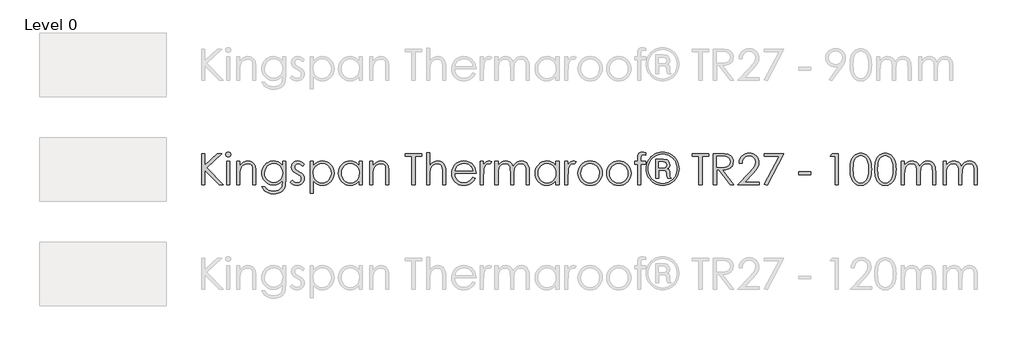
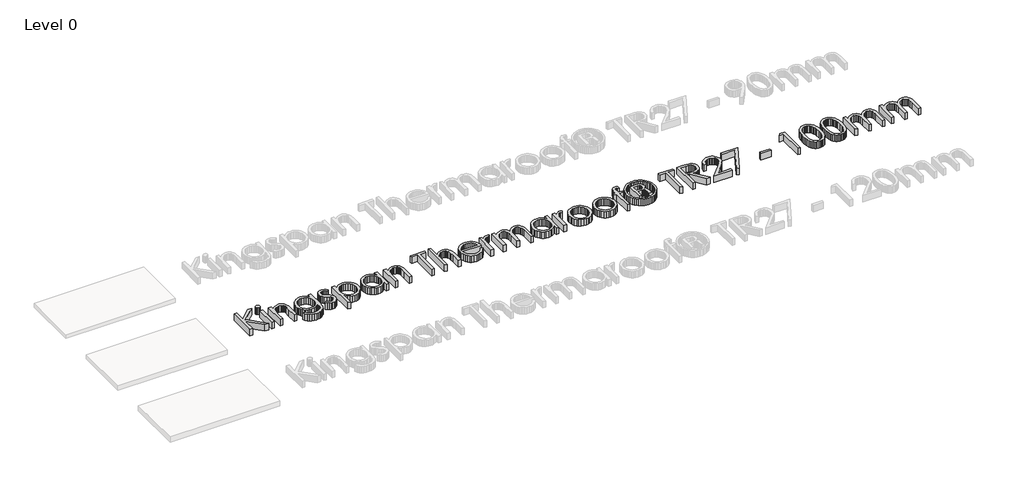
# One storey, part 7 of 12: 1 proxy.
"""IFC4 building model written with IfcOpenShell, lengths in millimetres."""

from ifc_helpers import new_model, si_unit, origin, origin_with_axes, place, context, project, spatial, polyline, outline, extrude, element, save

model = new_model("IFC4")

# Units and contexts
model_context = context("Model", 3, world=origin())
ifc_project = project(units=[si_unit("LENGTHUNIT", "METRE", prefix="MILLI")], contexts=[model_context])

# Site, building, storey
site = spatial("IfcSite", under=ifc_project)
building = spatial("IfcBuilding", under=site)
storey = spatial("IfcBuildingStorey", under=building, Name="Level 0", Elevation=0.0)

# Proxy
placement = place(None, origin())
element("IfcBuildingElementProxy", 1, Name="600mm KI_CenturyGothic", ObjectType="600mm KI_CenturyGothic", at=placement, inside=storey, context=model_context, shape_type="SweptSolid", body=[
    extrude(outline(polyline([(-3852.2663848, -3999.1037185), (-3792.944575, -3999.1037185), (-3792.944575, -4218.3163438), (-3555.1938841, -3999.1037185), (-3471.6181051, -3999.1037185), (-3760.9664119, -4266.0518627), (-3441.9572002, -4592.3218167), (-3520.8984627, -4592.3218167), (-3792.944575, -4314.0963493), (-3792.944575, -4592.3218167), (-3852.2663848, -4592.3218167), (-3852.2663848, -3999.1037185)])), origin_with_axes(), (0.0, 0.0, 1.0), 150.0),
    extrude(outline(polyline([(-3348.1854852, -3969.4428135), (-3329.145347, -3972.725596), (-3313.1176445, -3982.5739433), (-3302.226531, -3997.0181861), (-3298.5961598, -4014.0886548), (-3302.226531, -4030.9273977), (-3313.1176445, -4045.2943985), (-3329.145347, -4055.1427458), (-3348.1854852, -4058.4255283), (-3366.9938975, -4055.1427458), (-3382.9443581, -4045.2943985), (-3393.8354717, -4030.9273977), (-3397.4658428, -4014.0886548), (-3393.8354717, -3997.0181861), (-3382.9443581, -3982.5739433), (-3366.9938975, -3972.725596), (-3348.1854852, -3969.4428135)])), origin_with_axes(), (0.0, 0.0, 1.0), 150.0),
    extrude(outline(polyline([(-3377.6919062, -4147.408243), (-3318.3700964, -4147.408243), (-3318.3700964, -4592.3218167), (-3377.6919062, -4592.3218167), (-3377.6919062, -4147.408243)])), origin_with_axes(), (0.0, 0.0, 1.0), 150.0),
    extrude(outline(polyline([(-3189.8395084, -4147.408243), (-3130.5176986, -4147.408243), (-3130.5176986, -4226.5039894), (-3096.9946967, -4186.9947372), (-3060.0730495, -4159.3035018), (-3019.7141359, -4142.9668315), (-2975.879335, -4137.5212747), (-2953.4357238, -4139.0999069), (-2932.2955704, -4143.8358033), (-2912.4588747, -4151.728964), (-2893.9256368, -4162.7793891), (-2877.212412, -4176.5043162), (-2862.835756, -4192.4209835), (-2841.0921499, -4230.8295381), (-2833.6238199, -4255.2090254), (-2828.2892984, -4285.5554525), (-2824.0216812, -4364.1491263), (-2824.0216812, -4592.3218167), (-2883.343491, -4592.3218167), (-2883.343491, -4379.1340626), (-2883.343491, -4276.0933148), (-2884.7290183, -4255.2959225), (-2889.8125035, -4237.2406191), (-2898.2849788, -4221.9274045), (-2910.1464442, -4209.3562788), (-2924.7403432, -4199.5562077), (-2941.4101193, -4192.5561569), (-2980.977303, -4186.9561162), (-3005.3471351, -4189.1140629), (-3028.4038541, -4195.587903), (-3050.1474602, -4206.3776365), (-3070.5779533, -4221.4832634), (-3088.6622225, -4239.765465), (-3103.3671568, -4260.0849228), (-3114.6927562, -4282.4416368), (-3122.6390208, -4306.8356069), (-3128.5480292, -4353.9145693), (-3130.5176986, -4428.4144203), (-3130.5176986, -4592.3218167), (-3189.8395084, -4592.3218167), (-3189.8395084, -4147.408243)])), origin_with_axes(), (0.0, 0.0, 1.0), 150.0),
    extrude(outline(polyline([(-2319.7862977, -4147.408243), (-2260.4644879, -4147.408243), (-2260.4644879, -4498.3956178), (-2264.5196897, -4578.6499933), (-2269.588692, -4609.4502169), (-2276.6852953, -4634.0324642), (-2289.9371156, -4662.6457753), (-2307.2924139, -4687.7735439), (-2328.7511904, -4709.4157699), (-2354.3134448, -4727.5724534), (-2383.3226209, -4741.9346266), (-2415.122162, -4752.1933217), (-2449.7120682, -4758.3485388), (-2487.0923395, -4760.4002779), (-2541.0458345, -4756.383697), (-2589.206184, -4744.3339544), (-2630.260275, -4725.5062315), (-2662.8949946, -4701.15571), (-2690.2000204, -4667.8065024), (-2715.2650299, -4621.9827216), (-2655.94322, -4621.9827216), (-2642.4355358, -4643.1518408), (-2627.0933555, -4661.3954214), (-2609.9166791, -4676.7134636), (-2590.9055067, -4689.1059674), (-2569.7894914, -4698.669485), (-2546.2982864, -4705.5005691), (-2492.1903075, -4710.9654363), (-2438.5071593, -4705.6357425), (-2415.083541, -4698.9736252), (-2393.93856, -4689.6466609), (-2359.6624492, -4665.6051071), (-2336.8567664, -4636.1179966), (-2329.3884364, -4617.478551), (-2324.0539149, -4593.7701031), (-2319.7862977, -4531.1462003), (-2319.7862977, -4508.43707), (-2354.757586, -4544.2193986), (-2396.6420279, -4570.6168316), (-2443.392712, -4586.8955704), (-2492.9627269, -4592.3218167), (-2522.4063889, -4590.4245615), (-2550.9521133, -4584.7327961), (-2578.5999001, -4575.2465204), (-2605.3497494, -4561.9657343), (-2630.1540674, -4545.4745802), (-2651.9652601, -4526.3572), (-2670.7833277, -4504.613594), (-2686.6082702, -4480.2437619), (-2699.1456025, -4453.9283985), (-2708.1008399, -4426.3481984), (-2713.4739824, -4397.5031615), (-2715.2650299, -4367.3932878), (-2713.3967404, -4337.1047921), (-2707.7918722, -4307.8783731), (-2698.4504251, -4279.7140308), (-2685.3723991, -4252.6117651), (-2668.9971079, -4227.4260651), (-2649.7638648, -4205.0114197), (-2627.67267, -4185.3678288), (-2602.7235235, -4168.4952926), (-2575.9833294, -4154.9441598), (-2548.5189922, -4145.2647792), (-2520.3305117, -4139.4571508), (-2491.4178881, -4137.5212747), (-2444.5320306, -4142.4647589), (-2400.8903346, -4157.2952113), (-2359.6045177, -4183.8664386), (-2319.7862977, -4224.0322474), (-2319.7862977, -4147.408243)]), holes=[polyline([(-2484.1571458, -4186.9561162), (-2529.0154023, -4192.9809875), (-2570.5908765, -4211.0556015), (-2606.2187212, -4239.7702926), (-2633.2340897, -4277.7153956), (-2650.2659375, -4321.9943376), (-2655.94322, -4369.710546), (-2653.0080263, -4405.6232204), (-2644.2024452, -4438.2820781), (-2629.5264766, -4467.6871191), (-2608.9801206, -4493.8383434), (-2583.7606272, -4515.2971198), (-2555.0652466, -4530.6248172), (-2522.8939786, -4539.8214357), (-2487.2468234, -4542.8869752), (-2451.3244937, -4539.8455738), (-2419.1001219, -4530.7213696), (-2390.573708, -4515.5143627), (-2365.7452519, -4494.2245531), (-2345.6382095, -4467.981604), (-2331.2760363, -4437.9151789), (-2322.6587323, -4404.0252778), (-2319.7862977, -4366.3119006), (-2325.0773706, -4317.6108575), (-2340.9505892, -4274.3939922), (-2366.4983608, -4238.1675224), (-2400.8130926, -4210.437666), (-2440.9982119, -4192.8265037), (-2484.1571458, -4186.9561162)])]), origin_with_axes(), (0.0, 0.0, 1.0), 150.0),
    extrude(outline(polyline([(-1904.5336289, -4198.6968911), (-1940.9918246, -4236.3909578), (-1962.9575012, -4214.7632146), (-1984.6721416, -4199.3148266), (-2006.1357456, -4190.0457938), (-2027.3483133, -4186.9561162), (-2052.181597, -4191.6292536), (-2073.2300256, -4205.6486657), (-2087.5970264, -4225.8860539), (-2092.3860267, -4249.2131198), (-2088.4466878, -4270.763621), (-2076.628671, -4291.2327351), (-2052.0657341, -4313.4011718), (-2010.2006027, -4339.1227378), (-1958.3326401, -4371.9891832), (-1939.8428507, -4387.8141256), (-1926.315856, -4403.2335479), (-1909.9791857, -4435.9068884), (-1904.5336289, -4472.442326), (-1906.9474396, -4498.5887227), (-1914.1888714, -4522.6495869), (-1926.2579245, -4544.6249188), (-1943.1545989, -4564.5147183), (-1963.6719892, -4581.0058725), (-1986.6031901, -4592.7852683), (-2011.9482016, -4599.8529058), (-2039.7070237, -4602.208785), (-2077.4397114, -4598.3273775), (-2113.3958344, -4586.6831551), (-2145.4512394, -4568.203021), (-2171.4817731, -4543.8138785), (-2135.7959969, -4503.339102), (-2114.0041146, -4524.9668451), (-2091.5749863, -4540.4152331), (-2068.5086121, -4549.6842659), (-2044.8049918, -4552.7739435), (-2013.637869, -4547.1352819), (-1987.4914724, -4530.219297), (-1969.7644472, -4505.6563602), (-1963.8554388, -4477.0768424), (-1967.7561567, -4453.2863249), (-1979.4583106, -4432.2765173), (-2005.0253927, -4410.5715322), (-2050.2119275, -4383.768579), (-2099.762632, -4353.1035289), (-2117.441381, -4337.9447982), (-2130.3890611, -4322.9019304), (-2146.3781427, -4290.7692834), (-2151.7078365, -4254.3110878), (-2149.5305794, -4230.2647064), (-2142.9988078, -4208.3328231), (-2132.1125219, -4188.5154379), (-2116.8717217, -4170.8125508), (-2098.309518, -4156.2476175), (-2077.4590218, -4145.8440937), (-2054.3202332, -4139.6019795), (-2028.8931521, -4137.5212747), (-1997.9481, -4141.3447507), (-1966.9064954, -4152.8151788), (-1935.7683384, -4171.9325589), (-1904.5336289, -4198.6968911)])), origin_with_axes(), (0.0, 0.0, 1.0), 150.0),
    extrude(outline(polyline([(-1795.7769776, -4147.408243), (-1736.4551678, -4147.408243), (-1736.4551678, -4228.5122799), (-1700.9238754, -4188.2692292), (-1660.4490989, -4159.9214373), (-1614.9922173, -4143.1213154), (-1564.5146096, -4137.5212747), (-1520.0618732, -4141.7599262), (-1478.9305402, -4154.4758805), (-1441.1206107, -4175.6691378), (-1406.6320845, -4205.3396979), (-1377.9077381, -4240.9771979), (-1357.3903478, -4280.0712748), (-1345.0799137, -4322.6219284), (-1340.9764356, -4368.6291588), (-1345.0412927, -4415.5294992), (-1357.235864, -4458.7511922), (-1377.5601494, -4498.2942378), (-1406.014149, -4534.158636), (-1440.2130179, -4563.9305762), (-1477.7719111, -4585.1962477), (-1518.6908288, -4597.9556507), (-1562.9697708, -4602.208785), (-1612.6170277, -4596.7439178), (-1658.0545988, -4580.349316), (-1699.3211052, -4553.1022217), (-1736.4551678, -4515.0798768), (-1736.4551678, -4750.5133096), (-1795.7769776, -4750.5133096), (-1795.7769776, -4147.408243)]), holes=[polyline([(-1568.5311905, -4186.9561162), (-1602.5852307, -4190.2533815), (-1633.8392507, -4200.1451775), (-1662.2932503, -4216.631504), (-1687.9472295, -4239.7123612), (-1709.1694525, -4267.6980815), (-1724.3281832, -4298.8989976), (-1733.4234216, -4333.3151094), (-1736.4551678, -4370.946417), (-1731.048232, -4419.801944), (-1714.8274246, -4463.482261), (-1688.5265441, -4500.3266663), (-1652.8793888, -4528.6744582), (-1611.4390881, -4546.7490722), (-1567.7587711, -4552.7739435), (-1525.0632888, -4546.7104512), (-1485.0326535, -4528.5199744), (-1450.2544701, -4499.4190735), (-1423.3163435, -4460.6243092), (-1406.05277, -4415.9591575), (-1400.2982454, -4369.2470943), (-1405.9948385, -4322.3033054), (-1423.0846177, -4277.8698795), (-1449.8103289, -4239.5192563), (-1484.414718, -4210.8238757), (-1524.7157001, -4192.9230561), (-1568.5311905, -4186.9561162)])]), origin_with_axes(), (0.0, 0.0, 1.0), 150.0),
    extrude(outline(polyline([(-807.0801472, -4147.408243), (-807.0801472, -4592.3218167), (-866.401957, -4592.3218167), (-866.401957, -4516.4702317), (-903.4780882, -4554.3187823), (-944.8797679, -4581.0444935), (-990.4525125, -4596.9177121), (-1040.0418379, -4602.208785), (-1084.3159523, -4597.9556507), (-1125.2203871, -4585.1962477), (-1162.7551422, -4563.9305762), (-1196.9202178, -4534.158636), (-1225.340424, -4498.2942378), (-1245.6405713, -4458.7511922), (-1257.8206597, -4415.5294992), (-1261.8806892, -4368.6291588), (-1257.7820388, -4322.6219284), (-1245.4860875, -4280.0712748), (-1224.9928353, -4240.9771979), (-1196.3022822, -4205.3396979), (-1161.8475494, -4175.6691378), (-1124.061758, -4154.4758805), (-1082.9449079, -4141.7599262), (-1038.4969991, -4137.5212747), (-987.7490446, -4143.1213154), (-942.0990581, -4159.9214373), (-921.2051134, -4172.6084259), (-901.6242816, -4188.2692292), (-866.401957, -4228.5122799), (-866.401957, -4147.408243), (-807.0801472, -4147.408243)]), holes=[polyline([(-1034.3259343, -4186.9561162), (-1078.1414247, -4192.9230561), (-1118.4424068, -4210.8238757), (-1153.0467959, -4239.5192563), (-1179.7725071, -4277.8698795), (-1196.8622863, -4322.3033054), (-1202.5588794, -4369.2470943), (-1196.8043548, -4415.9591575), (-1179.5407813, -4460.6243092), (-1152.6026548, -4499.4190735), (-1117.8244713, -4528.5199744), (-1077.6779731, -4546.7104512), (-1034.6349021, -4552.7739435), (-991.0125165, -4546.7490722), (-949.7460102, -4528.6744582), (-914.2726493, -4500.3266663), (-888.0297002, -4463.482261), (-871.8088928, -4419.801944), (-866.401957, -4370.946417), (-869.4337032, -4333.3151094), (-878.5289416, -4298.8989976), (-893.6876723, -4267.6980815), (-914.9098953, -4239.7123612), (-940.5638746, -4216.631504), (-969.0178742, -4200.1451775), (-1000.2718941, -4190.2533815), (-1034.3259343, -4186.9561162)])]), origin_with_axes(), (0.0, 0.0, 1.0), 150.0),
    extrude(outline(polyline([(-668.662591, -4147.408243), (-609.3407811, -4147.408243), (-609.3407811, -4226.5039894), (-575.8177792, -4186.9947372), (-538.896132, -4159.3035018), (-498.5372184, -4142.9668315), (-454.7024175, -4137.5212747), (-432.2588064, -4139.0999069), (-411.1186529, -4143.8358033), (-391.2819572, -4151.728964), (-372.7487193, -4162.7793891), (-356.0354946, -4176.5043162), (-341.6588385, -4192.4209835), (-319.9152324, -4230.8295381), (-312.4469024, -4255.2090254), (-307.1123809, -4285.5554525), (-302.8447637, -4364.1491263), (-302.8447637, -4592.3218167), (-362.1665735, -4592.3218167), (-362.1665735, -4379.1340626), (-362.1665735, -4276.0933148), (-363.5521008, -4255.2959225), (-368.635586, -4237.2406191), (-377.1080613, -4221.9274045), (-388.9695267, -4209.3562788), (-403.5634257, -4199.5562077), (-420.2332018, -4192.5561569), (-459.8003855, -4186.9561162), (-484.1702176, -4189.1140629), (-507.2269366, -4195.587903), (-528.9705427, -4206.3776365), (-549.4010358, -4221.4832634), (-567.485305, -4239.765465), (-582.1902393, -4260.0849228), (-593.5158387, -4282.4416368), (-601.4621033, -4306.8356069), (-607.3711117, -4353.9145693), (-609.3407811, -4428.4144203), (-609.3407811, -4592.3218167), (-668.662591, -4592.3218167), (-668.662591, -4147.408243)])), origin_with_axes(), (0.0, 0.0, 1.0), 150.0),
    extrude(outline(polyline([(3.6512537, -4048.53856), (3.6512537, -3999.1037185), (320.0342394, -3999.1037185), (320.0342394, -4048.53856), (191.5036515, -4048.53856), (191.5036515, -4592.3218167), (132.1818417, -4592.3218167), (132.1818417, -4048.53856), (3.6512537, -4048.53856)])), origin_with_axes(), (0.0, 0.0, 1.0), 150.0),
    extrude(outline(polyline([(409.0169542, -3979.3297819), (468.338764, -3979.3297819), (468.338764, -4228.0488282), (502.1128022, -4188.3464712), (539.1696229, -4160.0759212), (579.470605, -4143.1599363), (622.9771276, -4137.5212747), (645.4207388, -4139.0999069), (666.5608922, -4143.8358033), (686.3975879, -4151.728964), (704.9308258, -4162.7793891), (721.6440506, -4176.4898334), (736.0207066, -4192.363052), (757.7643127, -4230.5978123), (765.2326428, -4254.9048852), (770.5671642, -4285.2657952), (774.8347814, -4364.1491263), (774.8347814, -4592.3218167), (715.5129716, -4592.3218167), (715.5129716, -4379.1340626), (714.1226167, -4314.7529058), (709.9515519, -4276.0933148), (696.4342124, -4237.2406191), (686.7210385, -4221.9274045), (675.0381951, -4209.3562788), (661.3953375, -4199.5562077), (645.8021209, -4192.5561569), (608.7646107, -4186.9561162), (585.8961689, -4189.1140629), (564.2539428, -4195.587903), (543.8379326, -4206.3776365), (524.6481382, -4221.4832634), (507.659739, -4239.765465), (493.8479146, -4260.0849228), (483.212665, -4282.4416368), (475.7539902, -4306.8356069), (470.1925705, -4353.6828435), (468.338764, -4428.4144203), (468.338764, -4592.3218167), (409.0169542, -4592.3218167), (409.0169542, -3979.3297819)])), origin_with_axes(), (0.0, 0.0, 1.0), 150.0),
    extrude(outline(polyline([(1280.6150037, -4444.0172921), (1328.5050064, -4469.1981645), (1302.8799929, -4511.0826064), (1273.5859872, -4544.0456043), (1240.5071264, -4569.1299242), (1203.5275477, -4587.3783325), (1162.048626, -4598.5011719), (1115.4717363, -4602.208785), (1063.9803281, -4597.7770287), (1018.4172388, -4584.4817598), (978.7824684, -4562.3229783), (945.0760169, -4531.3006842), (918.1765113, -4494.6976599), (898.9625788, -4455.796688), (887.4342193, -4414.5977683), (883.5914328, -4371.1009009), (886.8742152, -4330.2206042), (896.7225625, -4291.6189448), (913.1364748, -4255.2959225), (936.1159519, -4221.2515375), (972.3038007, -4184.6195476), (1014.1303111, -4158.4538404), (1061.5954832, -4142.7544161), (1114.6993169, -4137.5212747), (1169.3479893, -4142.8895895), (1218.2035163, -4158.994534), (1261.2658978, -4185.8361081), (1298.5351338, -4223.4143119), (1320.008393, -4255.5855798), (1335.456781, -4291.5417028), (1344.8802977, -4331.2826809), (1348.278943, -4374.808514), (942.9132426, -4374.808514), (946.6498214, -4412.0632671), (956.1602353, -4445.8131672), (971.4444841, -4476.0582143), (992.502568, -4502.7984084), (1017.86689, -4524.662705), (1046.0698533, -4540.2800597), (1077.1114579, -4549.6504725), (1110.9917037, -4552.7739435), (1144.5147056, -4549.7615078), (1177.1108043, -4540.7242009), (1206.8489511, -4526.6854783), (1231.7980977, -4508.6687958), (1255.2796474, -4482.5030887), (1280.6150037, -4444.0172921)]), holes=[polyline([(1288.9571332, -4325.3736725), (1274.5322009, -4282.8519846), (1254.7389538, -4249.8310553), (1228.6311782, -4224.3025942), (1195.2626601, -4204.2583108), (1157.3175572, -4191.2816649), (1117.4800267, -4186.9561162), (1085.0577224, -4189.6692394), (1054.9912973, -4197.8086088), (1027.2807514, -4211.3742245), (1001.9260846, -4230.3660864), (985.3866543, -4248.1800088), (970.9906877, -4269.9525806), (958.738185, -4295.6838018), (948.6291461, -4325.3736725), (1288.9571332, -4325.3736725)])]), origin_with_axes(), (0.0, 0.0, 1.0), 150.0),
    extrude(outline(polyline([(1427.3746895, -4147.408243), (1486.6964993, -4147.408243), (1486.6964993, -4211.8280209), (1512.2442709, -4178.7877811), (1539.1437765, -4155.6731306), (1567.317774, -4142.0592387), (1596.6890217, -4137.5212747), (1620.0160875, -4141.3061298), (1644.8879922, -4152.6606949), (1615.3815711, -4194.6803102), (1586.8020534, -4186.9561162), (1560.3853099, -4192.9037456), (1534.8954698, -4210.7466337), (1512.8428959, -4241.1027161), (1496.7379515, -4284.5899282), (1489.2068623, -4342.714488), (1486.6964993, -4440.1551951), (1486.6964993, -4592.3218167), (1427.3746895, -4592.3218167), (1427.3746895, -4147.408243)])), origin_with_axes(), (0.0, 0.0, 1.0), 150.0),
    extrude(outline(polyline([(1704.209802, -4147.408243), (1763.5316118, -4147.408243), (1763.5316118, -4223.5687957), (1793.1152748, -4187.0719791), (1823.4713571, -4161.9297277), (1866.8813274, -4143.623388), (1912.4540719, -4137.5212747), (1943.2929164, -4140.6688838), (1972.4710592, -4150.1117109), (1998.2312461, -4164.7876795), (2018.8162231, -4183.6347128), (2035.5970345, -4209.0666215), (2049.9447249, -4243.4972162), (2064.7220735, -4219.0984185), (2081.247021, -4197.8086088), (2099.5195674, -4179.6277872), (2119.5397127, -4164.5559537), (2140.83435, -4152.7282816), (2162.9303724, -4144.2799445), (2185.82778, -4139.2109421), (2209.5265726, -4137.5212747), (2251.8551557, -4143.3337307), (2271.0497777, -4150.5993007), (2288.9312868, -4160.7710986), (2305.0458865, -4173.5401568), (2318.9397805, -4188.5975075), (2340.065451, -4225.5770862), (2347.3648143, -4248.9524282), (2352.5786453, -4277.5222907), (2356.74971, -4350.2455771), (2356.74971, -4592.3218167), (2297.4279002, -4592.3218167), (2297.4279002, -4346.6924479), (2294.9754686, -4285.574763), (2287.6181738, -4247.1275874), (2274.3132497, -4222.6612029), (2254.01793, -4203.4858914), (2227.9487753, -4191.08856), (2197.3223461, -4186.9561162), (2177.6739277, -4188.5057827), (2158.894481, -4193.1547819), (2123.9425033, -4211.7507789), (2095.2085016, -4240.6971959), (2075.434565, -4277.9471214), (2068.743482, -4302.1045381), (2063.9641369, -4333.1751084), (2060.1406609, -4416.0557099), (2060.1406609, -4592.3218167), (2000.8188511, -4592.3218167), (2000.8188511, -4361.986352), (1998.4050405, -4293.5306828), (1991.1636086, -4251.2986521), (1977.9166159, -4225.0557031), (1957.4861228, -4204.5672785), (1931.1659318, -4191.3589068), (1900.2498454, -4186.9561162), (1863.3088876, -4193.000298), (1828.801051, -4211.1328434), (1799.8353235, -4239.4999458), (1779.5206934, -4276.2477987), (1767.5288822, -4328.0771404), (1763.5316118, -4401.6887091), (1763.5316118, -4592.3218167), (1704.209802, -4592.3218167), (1704.209802, -4147.408243)])), origin_with_axes(), (0.0, 0.0, 1.0), 150.0),
    extrude(outline(polyline([(2920.3069034, -4147.408243), (2920.3069034, -4592.3218167), (2860.9850935, -4592.3218167), (2860.9850935, -4516.4702317), (2823.9089624, -4554.3187823), (2782.5072826, -4581.0444935), (2736.9345381, -4596.9177121), (2687.3452127, -4602.208785), (2643.0710983, -4597.9556507), (2602.1666635, -4585.1962477), (2564.6319083, -4563.9305762), (2530.4668328, -4534.158636), (2502.0466266, -4498.2942378), (2481.7464792, -4458.7511922), (2469.5663908, -4415.5294992), (2465.5063614, -4368.6291588), (2469.6050118, -4322.6219284), (2481.9009631, -4280.0712748), (2502.3942153, -4240.9771979), (2531.0847683, -4205.3396979), (2565.5395011, -4175.6691378), (2603.3252926, -4154.4758805), (2644.4421427, -4141.7599262), (2688.8900515, -4137.5212747), (2739.638006, -4143.1213154), (2785.2879925, -4159.9214373), (2806.1819372, -4172.6084259), (2825.7627689, -4188.2692292), (2860.9850935, -4228.5122799), (2860.9850935, -4147.408243), (2920.3069034, -4147.408243)]), holes=[polyline([(2693.0611162, -4186.9561162), (2649.2456259, -4192.9230561), (2608.9446437, -4210.8238757), (2574.3402547, -4239.5192563), (2547.6145435, -4277.8698795), (2530.5247643, -4322.3033054), (2524.8281712, -4369.2470943), (2530.5826957, -4415.9591575), (2547.8462693, -4460.6243092), (2574.7843958, -4499.4190735), (2609.5625792, -4528.5199744), (2649.7090775, -4546.7104512), (2692.7521485, -4552.7739435), (2736.374534, -4546.7490722), (2777.6410404, -4528.6744582), (2813.1144013, -4500.3266663), (2839.3573504, -4463.482261), (2855.5781577, -4419.801944), (2860.9850935, -4370.946417), (2857.9533474, -4333.3151094), (2848.858109, -4298.8989976), (2833.6993783, -4267.6980815), (2812.4771553, -4239.7123612), (2786.823176, -4216.631504), (2758.3691764, -4200.1451775), (2727.1151565, -4190.2533815), (2693.0611162, -4186.9561162)])]), origin_with_axes(), (0.0, 0.0, 1.0), 150.0),
    extrude(outline(polyline([(3029.0635547, -4147.408243), (3088.3853645, -4147.408243), (3088.3853645, -4211.8280209), (3113.9331361, -4178.7877811), (3140.8326417, -4155.6731306), (3169.0066393, -4142.0592387), (3198.3778869, -4137.5212747), (3221.7049527, -4141.3061298), (3246.5768574, -4152.6606949), (3217.0704364, -4194.6803102), (3188.4909186, -4186.9561162), (3162.0741752, -4192.9037456), (3136.584335, -4210.7466337), (3114.5317612, -4241.1027161), (3098.4268167, -4284.5899282), (3090.8957276, -4342.714488), (3088.3853645, -4440.1551951), (3088.3853645, -4592.3218167), (3029.0635547, -4592.3218167), (3029.0635547, -4147.408243)])), origin_with_axes(), (0.0, 0.0, 1.0), 150.0),
    extrude(outline(polyline([(3508.7360013, -4137.5212747), (3558.0453247, -4142.1461359), (3602.932547, -4156.0207193), (3643.3976682, -4179.1450251), (3679.4406884, -4211.5190531), (3706.340194, -4246.7510329), (3725.5541265, -4285.0920008), (3737.0824861, -4326.5419568), (3740.9252726, -4371.1009009), (3736.8604155, -4415.9157089), (3724.6658442, -4457.8242889), (3704.3415588, -4496.8266409), (3675.8875592, -4532.9227649), (3641.0514443, -4563.2353987), (3601.580813, -4584.88728), (3557.4756654, -4597.8784087), (3508.7360013, -4602.208785), (3459.8611639, -4597.8784087), (3415.6594638, -4584.88728), (3376.130901, -4563.2353987), (3341.2754757, -4532.9227649), (3312.8214761, -4496.8266409), (3292.4971906, -4457.8242889), (3280.3026194, -4415.9157089), (3276.2377623, -4371.1009009), (3280.0805488, -4326.7350617), (3291.6089083, -4285.4009686), (3310.8228409, -4247.0986217), (3337.7223464, -4211.8280209), (3373.7846771, -4179.3188194), (3414.3077298, -4156.0979613), (3459.2915046, -4142.1654463), (3508.7360013, -4137.5212747)]), holes=[polyline([(3508.5815174, -4186.9561162), (3474.3054066, -4190.3306235), (3442.5396588, -4200.4541452), (3413.2842741, -4217.3266815), (3386.5392524, -4240.9482322), (3364.2356423, -4269.3587832), (3348.3044922, -4300.5983203), (3338.7458021, -4334.6668434), (3335.5595721, -4371.5643525), (3341.3720281, -4419.2998714), (3358.809396, -4463.6367449), (3386.1530427, -4501.4273639), (3421.6843351, -4529.5241196), (3463.2211882, -4546.9614875), (3508.5815174, -4552.7739435), (3553.9418466, -4546.9614875), (3595.4786998, -4529.5241196), (3631.0099921, -4501.4273639), (3658.3536389, -4463.6367449), (3675.7910068, -4419.2998714), (3681.6034628, -4371.5643525), (3678.4027499, -4334.6668434), (3668.8006112, -4300.5983203), (3652.7970468, -4269.3587832), (3630.3920566, -4240.9482322), (3603.5746206, -4217.3266815), (3574.3337188, -4200.4541452), (3542.669351, -4190.3306235), (3508.5815174, -4186.9561162)])]), origin_with_axes(), (0.0, 0.0, 1.0), 150.0),
    extrude(outline(polyline([(4052.519258, -4137.5212747), (4101.8285814, -4142.1461359), (4146.7158037, -4156.0207193), (4187.180925, -4179.1450251), (4223.2239452, -4211.5190531), (4250.1234507, -4246.7510329), (4269.3373833, -4285.0920008), (4280.8657428, -4326.5419568), (4284.7085293, -4371.1009009), (4280.6436722, -4415.9157089), (4268.4491009, -4457.8242889), (4248.1248155, -4496.8266409), (4219.6708159, -4532.9227649), (4184.834701, -4563.2353987), (4145.3640698, -4584.88728), (4101.2589221, -4597.8784087), (4052.519258, -4602.208785), (4003.6444206, -4597.8784087), (3959.4427205, -4584.88728), (3919.9141578, -4563.2353987), (3885.0587324, -4532.9227649), (3856.6047328, -4496.8266409), (3836.2804474, -4457.8242889), (3824.0858761, -4415.9157089), (3820.021019, -4371.1009009), (3823.8638055, -4326.7350617), (3835.392165, -4285.4009686), (3854.6060976, -4247.0986217), (3881.5056031, -4211.8280209), (3917.5679338, -4179.3188194), (3958.0909865, -4156.0979613), (4003.0747613, -4142.1654463), (4052.519258, -4137.5212747)]), holes=[polyline([(4052.3647741, -4186.9561162), (4018.0886633, -4190.3306235), (3986.3229156, -4200.4541452), (3957.0675308, -4217.3266815), (3930.3225091, -4240.9482322), (3908.018899, -4269.3587832), (3892.0877489, -4300.5983203), (3882.5290589, -4334.6668434), (3879.3428288, -4371.5643525), (3885.1552848, -4419.2998714), (3902.5926527, -4463.6367449), (3929.9362994, -4501.4273639), (3965.4675918, -4529.5241196), (4007.004445, -4546.9614875), (4052.3647741, -4552.7739435), (4097.7251033, -4546.9614875), (4139.2619565, -4529.5241196), (4174.7932489, -4501.4273639), (4202.1368956, -4463.6367449), (4219.5742635, -4419.2998714), (4225.3867195, -4371.5643525), (4222.1860066, -4334.6668434), (4212.5838679, -4300.5983203), (4196.5803035, -4269.3587832), (4174.1753133, -4240.9482322), (4147.3578773, -4217.3266815), (4118.1169755, -4200.4541452), (4086.4526077, -4190.3306235), (4052.3647741, -4186.9561162)])]), origin_with_axes(), (0.0, 0.0, 1.0), 150.0),
    extrude(outline(polyline([(4561.5436418, -3980.7201368), (4561.5436418, -4032.3177526), (4535.2813822, -4022.2376795), (4513.0357036, -4018.8776551), (4499.3059487, -4020.5576673), (4488.086557, -4025.5977038), (4479.9761533, -4032.8198252), (4475.5733627, -4041.0460918), (4473.0243787, -4087.6229816), (4473.0243787, -4147.408243), (4561.5436418, -4147.408243), (4561.5436418, -4196.8430845), (4472.8698948, -4196.8430845), (4472.8698948, -4592.3218167), (4413.2391172, -4592.3218167), (4413.2391172, -4196.8430845), (4353.9173074, -4196.8430845), (4353.9173074, -4147.408243), (4413.2391172, -4147.408243), (4413.2391172, -4079.8987876), (4415.3246496, -4040.0612571), (4421.5812467, -4013.5479612), (4432.8392595, -3995.6278312), (4449.9290387, -3981.5697981), (4472.000923, -3972.4745597), (4498.2052511, -3969.4428135), (4527.2482205, -3972.2621444), (4561.5436418, -3980.7201368)])), origin_with_axes(), (0.0, 0.0, 1.0), 150.0),
    extrude(outline(polyline([(5194.3096132, -4285.2078638), (5191.7075254, -4327.1502371), (5183.9012619, -4367.5477717), (5170.8908226, -4406.4004674), (5152.6762077, -4443.7083244), (5129.9284564, -4478.3465068), (5103.3186081, -4509.1901789), (5072.8466628, -4536.2393407), (5038.5126205, -4559.4939922), (5001.5958009, -4578.1817141), (4963.3755235, -4591.5300868), (4923.8517884, -4599.5391104), (4883.0245956, -4602.208785), (4842.2649894, -4599.5535933), (4802.7895305, -4591.5880183), (4764.5982189, -4578.3120598), (4727.6910545, -4559.7257181), (4693.3425293, -4536.5579637), (4662.8271355, -4509.5377676), (4636.1448729, -4478.6651298), (4613.2957415, -4443.9400502), (4594.9797465, -4406.6370209), (4581.896893, -4368.0305338), (4574.0471808, -4328.120589), (4571.4306101, -4286.9071864), (4574.0471808, -4245.2399875), (4581.896893, -4204.8955568), (4594.9797465, -4165.8738943), (4613.2957415, -4128.175), (4636.13039, -4093.1216421), (4662.769204, -4062.036589), (4693.2121836, -4034.9198405), (4727.4593286, -4011.7713966), (4764.2940787, -3993.2526415), (4802.4998732, -3980.0249593), (4842.0767122, -3972.08835), (4883.0245956, -3969.4428135), (4923.9531684, -3972.0738671), (4963.4720759, -3979.9670279), (5001.581318, -3993.1222957), (5038.2808947, -4011.5396708), (5072.4025216, -4034.5867346), (5102.7779145, -4061.6310688), (5129.4070733, -4092.6726734), (5152.289998, -4127.7115483), (5170.6735796, -4165.3332007), (5183.8047094, -4204.1231374), (5191.6833873, -4244.0813584), (5194.3096132, -4285.2078638)]), holes=[polyline([(5154.76174, -4285.8257993), (5152.4782752, -4249.681399), (5145.6278806, -4214.6280412), (5134.2105564, -4180.6657258), (5118.2263025, -4147.7944527), (5098.3220201, -4117.1921617), (5075.1446105, -4090.0367922), (5048.6940737, -4066.3283443), (5018.9704097, -4046.0668179), (4987.0115571, -4029.8460105), (4953.8554544, -4018.2597195), (4919.5021017, -4011.307945), (4883.9514988, -4008.9906868), (4848.1353768, -4011.307945), (4813.4489182, -4018.2597195), (4779.892123, -4029.8460105), (4747.4649911, -4046.0668179), (4717.3116688, -4066.3283443), (4690.5763024, -4090.0367922), (4667.2588918, -4117.1921617), (4647.359437, -4147.7944527), (4631.4427698, -4180.714002), (4620.0737217, -4214.821146), (4613.2522929, -4250.1158849), (4610.9784833, -4286.5982187), (4613.2522929, -4322.906758), (4620.0737217, -4357.9890816), (4631.4427698, -4391.8451894), (4647.359437, -4424.4750813), (4667.268547, -4454.8070256), (4690.6149233, -4481.7692902), (4717.398566, -4505.3618753), (4747.619475, -4525.5847806), (4780.0948831, -4541.805588), (4813.6420231, -4553.391879), (4848.260895, -4560.3436536), (4883.9514988, -4562.6609118), (4919.3234797, -4560.3291707), (4953.6044181, -4553.3339475), (4986.7943142, -4541.6752422), (5018.8931678, -4525.3530548), (5048.7761433, -4505.0432523), (5075.3184049, -4481.4217015), (5098.5199526, -4454.4884026), (5118.3807864, -4424.2433555), (5134.2974536, -4391.6665674), (5145.6665016, -4357.7380453), (5152.4879304, -4322.4577893), (5154.76174, -4285.8257993)])]), origin_with_axes(), (0.0, 0.0, 1.0), 150.0),
    extrude(outline(polyline([(4749.3960396, -4107.8603698), (4893.5294994, -4107.8603698), (4936.9587801, -4110.4672853), (4966.2141648, -4118.2880317), (4986.3356901, -4132.0177865), (5002.3633927, -4152.3517272), (5012.848986, -4177.9574302), (5016.3441838, -4207.5024722), (5014.722103, -4232.7992075), (5009.8558608, -4254.3110878), (4997.0336988, -4269.5663709), (4974.6335362, -4286.2892509), (4995.2957552, -4298.9762395), (5007.8475704, -4313.5556557), (5014.2200304, -4334.6620158), (5016.3441838, -4366.9298361), (5016.3441838, -4407.0956449), (5021.4035308, -4433.0489367), (5036.581572, -4454.3677121), (5046.0050887, -4463.7912287), (4976.7963106, -4463.7912287), (4967.7590036, -4439.6531225), (4961.9658581, -4411.4211935), (4957.022374, -4367.8567394), (4954.4540795, -4347.3296939), (4949.8388735, -4333.9475278), (4942.9836514, -4325.5088459), (4933.6953081, -4319.8122528), (4918.0151943, -4316.5680913), (4891.9846606, -4315.4867042), (4808.7178494, -4315.4867042), (4808.7178494, -4463.7912287), (4749.3960396, -4463.7912287), (4749.3960396, -4107.8603698)]), holes=[polyline([(4808.7178494, -4157.2952113), (4808.7178494, -4266.0518627), (4888.5860152, -4266.0518627), (4919.1738234, -4263.7346045), (4938.0208567, -4256.7828299), (4946.3340205, -4248.8944968), (4952.2719947, -4238.669595), (4957.022374, -4211.2100854), (4953.6044181, -4186.9947372), (4943.3505506, -4170.2718572), (4923.6345454, -4160.5393728), (4891.8301767, -4157.2952113), (4808.7178494, -4157.2952113)])]), origin_with_axes(), (0.0, 0.0, 1.0), 150.0),
    extrude(outline(polyline([(5441.4838208, -4048.53856), (5441.4838208, -3999.1037185), (5757.8668066, -3999.1037185), (5757.8668066, -4048.53856), (5629.3362186, -4048.53856), (5629.3362186, -4592.3218167), (5570.0144088, -4592.3218167), (5570.0144088, -4048.53856), (5441.4838208, -4048.53856)])), origin_with_axes(), (0.0, 0.0, 1.0), 150.0),
    extrude(outline(polyline([(5846.8495213, -3999.1037185), (5966.5745281, -3999.1037185), (6050.4206538, -4001.034767), (6102.0568906, -4006.8279124), (6127.5370756, -4014.3638292), (6150.5262079, -4025.2308046), (6171.0242877, -4039.4288387), (6189.0313149, -4056.9579314), (6203.6976283, -4077.2580787), (6214.1735664, -4099.7692766), (6220.4591292, -4124.491525), (6222.5543169, -4151.4248239), (6216.7804818, -4195.2789353), (6209.5631881, -4215.1059757), (6199.4589768, -4233.533006), (6186.6754358, -4250.1738164), (6171.4201527, -4264.6421973), (6133.4943602, -4287.0616703), (6110.0176381, -4294.9982796), (6082.4567484, -4300.7334937), (6015.0824664, -4305.5997359), (6232.4412852, -4592.3218167), (6160.4517972, -4592.3218167), (5943.0929784, -4305.5997359), (5906.1713311, -4305.5997359), (5906.1713311, -4592.3218167), (5846.8495213, -4592.3218167), (5846.8495213, -3999.1037185)]), holes=[polyline([(5906.1713311, -4048.53856), (5906.1713311, -4256.1648944), (6011.0658855, -4256.7828299), (6064.1310982, -4253.8862571), (6101.2844713, -4245.1965389), (6127.276384, -4230.1150501), (6146.8572158, -4208.0431658), (6159.1386842, -4180.9891764), (6163.232507, -4150.9613723), (6159.0807528, -4121.7446085), (6146.62549, -4095.2699336), (6127.4308679, -4073.7387429), (6103.0610359, -4059.3524316), (6067.2014653, -4051.2420279), (6013.5376276, -4048.53856), (5906.1713311, -4048.53856)])]), origin_with_axes(), (0.0, 0.0, 1.0), 150.0),
    extrude(outline(polyline([(6390.632778, -4177.0691479), (6331.3109682, -4177.0691479), (6335.7958283, -4137.810932), (6346.9331505, -4102.2217082), (6364.7229348, -4070.3014765), (6389.1651812, -4042.050237), (6418.5605669, -4018.9355865), (6451.2097694, -4002.4251219), (6487.1127885, -3992.5188431), (6526.2696244, -3989.2167502), (6564.7409381, -3992.5140155), (6599.35981, -4002.4058114), (6630.1262402, -4018.8921379), (6657.0402286, -4041.9729951), (6678.9045253, -4069.5338848), (6694.52188, -4099.4603088), (6703.8922928, -4131.7522673), (6707.0157637, -4166.4097602), (6700.932961, -4215.2073557), (6682.6845527, -4260.8766527), (6646.902224, -4312.7639258), (6588.2176602, -4380.2154498), (6435.4331031, -4542.8869752), (6716.902732, -4542.8869752), (6716.902732, -4592.3218167), (6311.5370316, -4592.3218167), (6537.5469477, -4351.635932), (6594.2811525, -4286.1154565), (6626.993114, -4240.0213289), (6642.5187439, -4202.6555405), (6647.6939539, -4163.3200826), (6645.4442824, -4138.7136972), (6638.6952679, -4115.8742211), (6627.4469104, -4094.8016543), (6611.6992099, -4075.495997), (6592.6880375, -4059.3765697), (6571.6492641, -4047.862693), (6548.5828898, -4040.954367), (6523.4889146, -4038.6515917), (6497.1542407, -4040.9254013), (6473.1464803, -4047.7468301), (6451.4656333, -4059.1158781), (6432.1116997, -4075.0325454), (6415.8764095, -4095.0526906), (6403.5514925, -4118.7321728), (6395.1369486, -4146.0709919), (6390.632778, -4177.0691479)])), origin_with_axes(), (0.0, 0.0, 1.0), 150.0),
    extrude(outline(polyline([(6805.8854468, -3999.1037185), (7181.5902423, -3999.1037185), (6865.2072566, -4602.208785), (6811.2923826, -4579.8086224), (7089.9813016, -4048.53856), (6805.8854468, -4048.53856), (6805.8854468, -3999.1037185)])), origin_with_axes(), (0.0, 0.0, 1.0), 150.0),
    extrude(outline(polyline([(7458.4253548, -4345.1476091), (7685.8256258, -4345.1476091), (7685.8256258, -4394.5824506), (7458.4253548, -4394.5824506), (7458.4253548, -4345.1476091)])), origin_with_axes(), (0.0, 0.0, 1.0), 150.0),
    extrude(outline(polyline([(8095.362391, -3999.1037185), (8209.8349459, -3999.1037185), (8209.8349459, -4592.3218167), (8150.5131361, -4592.3218167), (8150.5131361, -4048.53856), (8061.5304214, -4048.53856), (8095.362391, -3999.1037185)])), origin_with_axes(), (0.0, 0.0, 1.0), 150.0),
    extrude(outline(polyline([(8437.2352169, -4295.8672515), (8438.8138491, -4241.435822), (8443.5497455, -4193.5409916), (8451.4429062, -4152.1827604), (8462.4933313, -4117.3611284), (8476.4210185, -4087.719534), (8492.9459661, -4061.9014156), (8512.0681738, -4039.9067732), (8533.7876418, -4021.7356068), (8557.4816068, -4007.508607), (8582.5273058, -3997.3464643), (8608.9247388, -3991.2491787), (8636.6739057, -3989.2167502), (8664.876869, -3991.2636616), (8691.7087878, -3997.4043958), (8717.1696623, -4007.6389528), (8741.2594923, -4021.9673327), (8763.4424119, -4040.3847077), (8783.1825551, -4062.8862503), (8800.479922, -4089.4719605), (8815.3345126, -4120.1418382), (8827.2635647, -4155.6586477), (8835.7843162, -4196.7851531), (8840.8967671, -4243.5213543), (8842.6009174, -4295.8672515), (8840.9209052, -4348.0538371), (8835.8808686, -4394.6210716), (8827.4808077, -4435.568955), (8815.7207223, -4470.8974872), (8801.0109604, -4501.4225363), (8783.7618697, -4527.9599703), (8763.9734502, -4550.5097891), (8741.645702, -4569.0719928), (8717.3869052, -4583.5693394), (8691.8053403, -4593.9245869), (8664.9010071, -4600.1377355), (8636.6739057, -4602.208785), (8608.9488769, -4600.2004946), (8582.6238583, -4594.1756232), (8557.6988498, -4584.1341711), (8534.1738515, -4570.076138), (8512.5992121, -4552.040145), (8493.5252806, -4530.0648132), (8476.9520569, -4504.1501423), (8462.879541, -4474.2961326), (8451.6601492, -4439.2765681), (8443.6462979, -4397.8652331), (8438.8379872, -4350.0621275), (8437.2352169, -4295.8672515)]), holes=[polyline([(8496.5570267, -4295.7127676), (8500.9405068, -4384.0389258), (8506.4198569, -4419.0198693), (8514.0909471, -4447.8793891), (8523.9055011, -4472.1188754), (8535.8152427, -4493.2397183), (8549.8201719, -4511.2419179), (8565.9202888, -4526.1254742), (8601.2198553, -4546.1118262), (8619.6227475, -4551.1084141), (8638.5277122, -4552.7739435), (8657.5195742, -4551.1422075), (8675.8741902, -4546.2469996), (8710.6716841, -4526.6661678), (8726.4290398, -4511.9901992), (8740.1781051, -4494.0700692), (8751.91888, -4472.9057776), (8761.6513644, -4448.4973246), (8771.113502, -4415.1384619), (8777.8721718, -4378.5547481), (8783.2791076, -4295.7127676), (8778.4514863, -4214.1066581), (8772.4169598, -4179.4153719), (8763.9686226, -4148.7985979), (8753.3864768, -4122.1356458), (8740.9505245, -4099.305825), (8726.6607656, -4080.3091354), (8710.5172002, -4065.1455771), (8675.4493595, -4045.275088), (8657.2202617, -4040.3074658), (8638.5277122, -4038.6515917), (8619.5117122, -4040.3074658), (8601.0846819, -4045.275088), (8565.9975307, -4065.1455771), (8550.0518977, -4079.956719), (8536.1242104, -4097.8961596), (8524.2144688, -4118.9638987), (8514.3226729, -4143.1599363), (8506.5502027, -4172.0146285), (8500.9984383, -4207.0583311), (8496.5570267, -4295.7127676)])]), origin_with_axes(), (0.0, 0.0, 1.0), 150.0),
    extrude(outline(polyline([(8901.9227272, -4295.8672515), (8903.5013594, -4241.435822), (8908.2372558, -4193.5409916), (8916.1304165, -4152.1827604), (8927.1808415, -4117.3611284), (8941.1085288, -4087.719534), (8957.6334763, -4061.9014156), (8976.7556841, -4039.9067732), (8998.475152, -4021.7356068), (9022.1691171, -4007.508607), (9047.2148161, -3997.3464643), (9073.6122491, -3991.2491787), (9101.361416, -3989.2167502), (9129.5643793, -3991.2636616), (9156.3962981, -3997.4043958), (9181.8571726, -4007.6389528), (9205.9470026, -4021.9673327), (9228.1299222, -4040.3847077), (9247.8700654, -4062.8862503), (9265.1674323, -4089.4719605), (9280.0220229, -4120.1418382), (9291.951075, -4155.6586477), (9300.4718265, -4196.7851531), (9305.5842774, -4243.5213543), (9307.2884277, -4295.8672515), (9305.6084155, -4348.0538371), (9300.5683789, -4394.6210716), (9292.1683179, -4435.568955), (9280.4082326, -4470.8974872), (9265.6984707, -4501.4225363), (9248.44938, -4527.9599703), (9228.6609605, -4550.5097891), (9206.3332123, -4569.0719928), (9182.0744155, -4583.5693394), (9156.4928505, -4593.9245869), (9129.5885174, -4600.1377355), (9101.361416, -4602.208785), (9073.6363872, -4600.2004946), (9047.3113685, -4594.1756232), (9022.3863601, -4584.1341711), (8998.8613617, -4570.076138), (8977.2867224, -4552.040145), (8958.2127909, -4530.0648132), (8941.6395672, -4504.1501423), (8927.5670512, -4474.2961326), (8916.3476595, -4439.2765681), (8908.3338082, -4397.8652331), (8903.5254975, -4350.0621275), (8901.9227272, -4295.8672515)]), holes=[polyline([(8961.244537, -4295.7127676), (8965.6280171, -4384.0389258), (8971.1073672, -4419.0198693), (8978.7784574, -4447.8793891), (8988.5930114, -4472.1188754), (9000.502753, -4493.2397183), (9014.5076822, -4511.2419179), (9030.607799, -4526.1254742), (9065.9073656, -4546.1118262), (9084.3102577, -4551.1084141), (9103.2152225, -4552.7739435), (9122.2070845, -4551.1422075), (9140.5617004, -4546.2469996), (9175.3591944, -4526.6661678), (9191.1165501, -4511.9901992), (9204.8656154, -4494.0700692), (9216.6063903, -4472.9057776), (9226.3388747, -4448.4973246), (9235.8010123, -4415.1384619), (9242.5596821, -4378.5547481), (9247.9666178, -4295.7127676), (9243.1389966, -4214.1066581), (9237.10447, -4179.4153719), (9228.6561329, -4148.7985979), (9218.0739871, -4122.1356458), (9205.6380348, -4099.305825), (9191.3482759, -4080.3091354), (9175.2047105, -4065.1455771), (9140.1368698, -4045.275088), (9121.907772, -4040.3074658), (9103.2152225, -4038.6515917), (9084.1992224, -4040.3074658), (9065.7721922, -4045.275088), (9030.685041, -4065.1455771), (9014.739408, -4079.956719), (9000.8117207, -4097.8961596), (8988.9019791, -4118.9638987), (8979.0101832, -4143.1599363), (8971.237713, -4172.0146285), (8965.6859486, -4207.0583311), (8961.244537, -4295.7127676)])]), origin_with_axes(), (0.0, 0.0, 1.0), 150.0),
    extrude(outline(polyline([(9406.1581107, -4147.408243), (9465.4799205, -4147.408243), (9465.4799205, -4223.5687957), (9495.0635835, -4187.0719791), (9525.4196659, -4161.9297277), (9568.8296361, -4143.623388), (9614.4023806, -4137.5212747), (9645.2412251, -4140.6688838), (9674.4193679, -4150.1117109), (9700.1795548, -4164.7876795), (9720.7645318, -4183.6347128), (9737.5453433, -4209.0666215), (9751.8930336, -4243.4972162), (9766.6703822, -4219.0984185), (9783.1953297, -4197.8086088), (9801.4678761, -4179.6277872), (9821.4880214, -4164.5559537), (9842.7826587, -4152.7282816), (9864.8786811, -4144.2799445), (9887.7760887, -4139.2109421), (9911.4748814, -4137.5212747), (9953.8034644, -4143.3337307), (9972.9980865, -4150.5993007), (9990.8795956, -4160.7710986), (10006.9941953, -4173.5401568), (10020.8880892, -4188.5975075), (10042.0137597, -4225.5770862), (10049.3131231, -4248.9524282), (10054.526954, -4277.5222907), (10058.6980188, -4350.2455771), (10058.6980188, -4592.3218167), (9999.3762089, -4592.3218167), (9999.3762089, -4346.6924479), (9996.9237773, -4285.574763), (9989.5664826, -4247.1275874), (9976.2615584, -4222.6612029), (9955.9662387, -4203.4858914), (9929.897084, -4191.08856), (9899.2706549, -4186.9561162), (9879.6222364, -4188.5057827), (9860.8427898, -4193.1547819), (9825.890812, -4211.7507789), (9797.1568103, -4240.6971959), (9777.3828737, -4277.9471214), (9770.6917907, -4302.1045381), (9765.9124457, -4333.1751084), (9762.0889696, -4416.0557099), (9762.0889696, -4592.3218167), (9702.7671598, -4592.3218167), (9702.7671598, -4361.986352), (9700.3533492, -4293.5306828), (9693.1119173, -4251.2986521), (9679.8649246, -4225.0557031), (9659.4344316, -4204.5672785), (9633.1142405, -4191.3589068), (9602.1981541, -4186.9561162), (9565.2571964, -4193.000298), (9530.7493597, -4211.1328434), (9501.7836323, -4239.4999458), (9481.4690021, -4276.2477987), (9469.4771909, -4328.0771404), (9465.4799205, -4401.6887091), (9465.4799205, -4592.3218167), (9406.1581107, -4592.3218167), (9406.1581107, -4147.408243)])), origin_with_axes(), (0.0, 0.0, 1.0), 150.0),
    extrude(outline(polyline([(10197.115575, -4147.408243), (10256.4373848, -4147.408243), (10256.4373848, -4223.5687957), (10286.0210478, -4187.0719791), (10316.3771302, -4161.9297277), (10359.7871004, -4143.623388), (10405.3598449, -4137.5212747), (10436.1986894, -4140.6688838), (10465.3768322, -4150.1117109), (10491.1370191, -4164.7876795), (10511.7219961, -4183.6347128), (10528.5028076, -4209.0666215), (10542.8504979, -4243.4972162), (10557.6278465, -4219.0984185), (10574.152794, -4197.8086088), (10592.4253404, -4179.6277872), (10612.4454857, -4164.5559537), (10633.740123, -4152.7282816), (10655.8361454, -4144.2799445), (10678.733553, -4139.2109421), (10702.4323457, -4137.5212747), (10744.7609287, -4143.3337307), (10763.9555508, -4150.5993007), (10781.8370599, -4160.7710986), (10797.9516596, -4173.5401568), (10811.8455535, -4188.5975075), (10832.9712241, -4225.5770862), (10840.2705874, -4248.9524282), (10845.4844183, -4277.5222907), (10849.6554831, -4350.2455771), (10849.6554831, -4592.3218167), (10790.3336732, -4592.3218167), (10790.3336732, -4346.6924479), (10787.8812417, -4285.574763), (10780.5239469, -4247.1275874), (10767.2190227, -4222.6612029), (10746.923703, -4203.4858914), (10720.8545483, -4191.08856), (10690.2281192, -4186.9561162), (10670.5797007, -4188.5057827), (10651.8002541, -4193.1547819), (10616.8482763, -4211.7507789), (10588.1142747, -4240.6971959), (10568.3403381, -4277.9471214), (10561.649255, -4302.1045381), (10556.86991, -4333.1751084), (10553.046434, -4416.0557099), (10553.046434, -4592.3218167), (10493.7246241, -4592.3218167), (10493.7246241, -4361.986352), (10491.3108135, -4293.5306828), (10484.0693816, -4251.2986521), (10470.822389, -4225.0557031), (10450.3918959, -4204.5672785), (10424.0717049, -4191.3589068), (10393.1556184, -4186.9561162), (10356.2146607, -4193.000298), (10321.706824, -4211.1328434), (10292.7410966, -4239.4999458), (10272.4264664, -4276.2477987), (10260.4346552, -4328.0771404), (10256.4373848, -4401.6887091), (10256.4373848, -4592.3218167), (10197.115575, -4592.3218167), (10197.115575, -4147.408243)])), origin_with_axes(), (0.0, 0.0, 1.0), 150.0),
])

save(model, "model.ifc")
